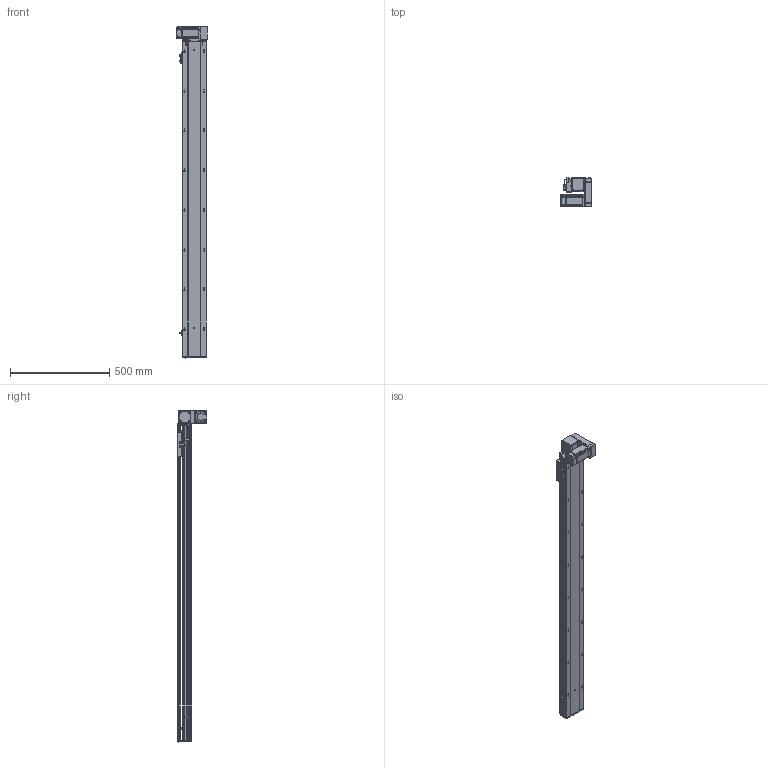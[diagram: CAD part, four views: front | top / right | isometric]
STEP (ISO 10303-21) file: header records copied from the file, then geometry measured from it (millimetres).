
FILE_DESCRIPTION (( 'STEP AP203' ), '1' );
FILE_NAME ('RY120-T-300-DR.SLDASM_1350.step', '2021-03-01T03:36:19', ( '盈信电脑' ), ( '东莞市道滘镇水果街19号' ), 'SwSTEP 2.0', 'SolidWorks 2012', '' );
FILE_SCHEMA (( 'CONFIG_CONTROL_DESIGN' ));
Length unit declared in the file: millimetre
Products named in the file (17): RY120-T-300-DR.SLDASM_1350; RY120-T主同步轮轴承压盖; RY120-T萇儂欶; RY120-T萇儂假蚾啣; RY120-T翋肮祭謫裔啣; 15; RY120-T蹟翐M4; RY120-T翋肮祭盓傅釱; 滅袉蝶18-10; RY120-T肮祭湍揤踡輸2; 覜茼ん672; RY120外置感应片(140共用）; RY120綴裔啣; RY120-T肮祭湍揤踡輸1; RY120-T-300-DR倰第菁釱_1350; RY120肮祭湍臏賑輸; RY120-T-300-DR倰第奻裔啣_1350
Assembly tree (22 placements, depth 2):
  RY120-T-300-DR.SLDASM_1350
    RY120-T-300-DR倰第菁釱_1350
    RY120-T-300-DR倰第奻裔啣_1350
    RY120肮祭湍臏賑輸
    RY120綴裔啣
    覜茼ん672  x3
    RY120外置感应片(140共用）
    RY120-T肮祭湍揤踡輸1
    RY120-T肮祭湍揤踡輸2
    RY120-T翋肮祭盓傅釱
    滅袉蝶18-10  x2
    RY120-T翋肮祭謫裔啣
    15
    RY120-T萇儂假蚾啣
    RY120-T蹟翐M4  x4
    RY120-T萇儂欶
    RY120-T主同步轮轴承压盖
Bounding box: 155.5 x 150 x 1671 mm (x, y, z)
Volume: 4384286.2 mm3; surface area: 1654043.8 mm2
Topology: 23 solids, 23 shells, 2902 faces, 7912 edges, 5058 vertices
Faces by surface type: plane 1422, cylinder 1116, cone 275, bspline 89
Entity records: 92403 total; most frequent: CARTESIAN_POINT 23588, ORIENTED_EDGE 14200, DIRECTION 13454, EDGE_CURVE 7100, VERTEX_POINT 4645, AXIS2_PLACEMENT_3D 4527, VECTOR 4400, LINE 4400
